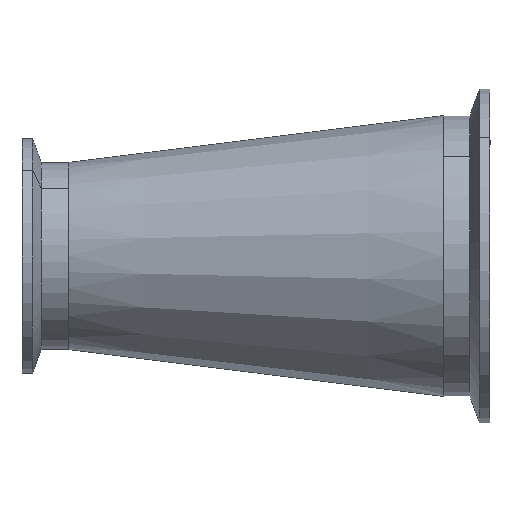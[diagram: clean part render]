
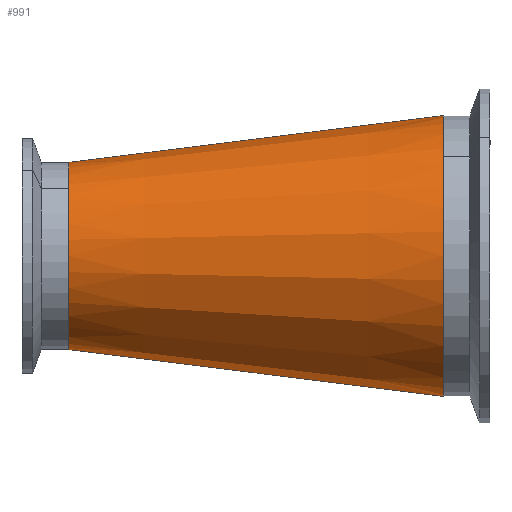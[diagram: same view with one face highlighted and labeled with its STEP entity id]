
A CAD part, front view. The second image highlights one B-rep face of the part: STEP entity #991.
In plain terms, the highlighted conical face has half-angle 7.125 degrees and reference radius 38.1 mm.
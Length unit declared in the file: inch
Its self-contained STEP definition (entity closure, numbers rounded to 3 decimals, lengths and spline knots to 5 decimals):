
#9 = DIRECTION ( 'NONE',  ( 1., 0., 0. ) ) ;
#41 = EDGE_CURVE ( 'NONE', #635, #621, #750, .T. ) ;
#60 = DIRECTION ( 'NONE',  ( 1., 0., 0. ) ) ;
#141 = AXIS2_PLACEMENT_3D ( 'NONE', #574, #1493, #464 ) ;
#163 = CARTESIAN_POINT ( 'NONE',  ( -2., 0., 1. ) ) ;
#192 = LINE ( 'NONE', #1219, #1099 ) ;
#220 = ORIENTED_EDGE ( 'NONE', *, *, #1244, .F. ) ;
#226 = LINE ( 'NONE', #1348, #345 ) ;
#241 = ORIENTED_EDGE ( 'NONE', *, *, #1434, .T. ) ;
#273 = EDGE_CURVE ( 'NONE', #893, #371, #606, .T. ) ;
#345 = VECTOR ( 'NONE', #347, 39.37008 ) ;
#347 = DIRECTION ( 'NONE',  ( 0.992, 0., 0.124 ) ) ;
#371 = VERTEX_POINT ( 'NONE', #1262 ) ;
#464 = DIRECTION ( 'NONE',  ( 0., 0., -1. ) ) ;
#518 = CARTESIAN_POINT ( 'NONE',  ( -2., 0., 0. ) ) ;
#574 = CARTESIAN_POINT ( 'NONE',  ( 2., 0., 0. ) ) ;
#601 = DIRECTION ( 'NONE',  ( 0., 0., -1. ) ) ;
#606 = CIRCLE ( 'NONE', #141, 1.5 ) ;
#621 = VERTEX_POINT ( 'NONE', #1538 ) ;
#623 = AXIS2_PLACEMENT_3D ( 'NONE', #518, #60, #1297 ) ;
#635 = VERTEX_POINT ( 'NONE', #163 ) ;
#750 = CIRCLE ( 'NONE', #623, 1. ) ;
#769 = EDGE_LOOP ( 'NONE', ( #220, #1372, #241, #1503 ) ) ;
#864 = CONICAL_SURFACE ( 'NONE', #1307, 1.5, 0.124 ) ;
#893 = VERTEX_POINT ( 'NONE', #1508 ) ;
#956 = DIRECTION ( 'NONE',  ( 0.992, 0., -0.124 ) ) ;
#985 = CARTESIAN_POINT ( 'NONE',  ( 2., 0., 0. ) ) ;
#991 = ADVANCED_FACE ( 'NONE', ( #1100 ), #864, .T. ) ;
#1099 = VECTOR ( 'NONE', #956, 39.37008 ) ;
#1100 = FACE_OUTER_BOUND ( 'NONE', #769, .T. ) ;
#1219 = CARTESIAN_POINT ( 'NONE',  ( 2., 0., -1.5 ) ) ;
#1244 = EDGE_CURVE ( 'NONE', #635, #893, #226, .T. ) ;
#1262 = CARTESIAN_POINT ( 'NONE',  ( 2., 0., -1.5 ) ) ;
#1297 = DIRECTION ( 'NONE',  ( 0., 0., -1. ) ) ;
#1307 = AXIS2_PLACEMENT_3D ( 'NONE', #985, #9, #601 ) ;
#1348 = CARTESIAN_POINT ( 'NONE',  ( 2., 0., 1.5 ) ) ;
#1372 = ORIENTED_EDGE ( 'NONE', *, *, #41, .T. ) ;
#1434 = EDGE_CURVE ( 'NONE', #621, #371, #192, .T. ) ;
#1493 = DIRECTION ( 'NONE',  ( 1., 0., 0. ) ) ;
#1503 = ORIENTED_EDGE ( 'NONE', *, *, #273, .F. ) ;
#1508 = CARTESIAN_POINT ( 'NONE',  ( 2., 0., 1.5 ) ) ;
#1538 = CARTESIAN_POINT ( 'NONE',  ( -2., 0., -1. ) ) ;
